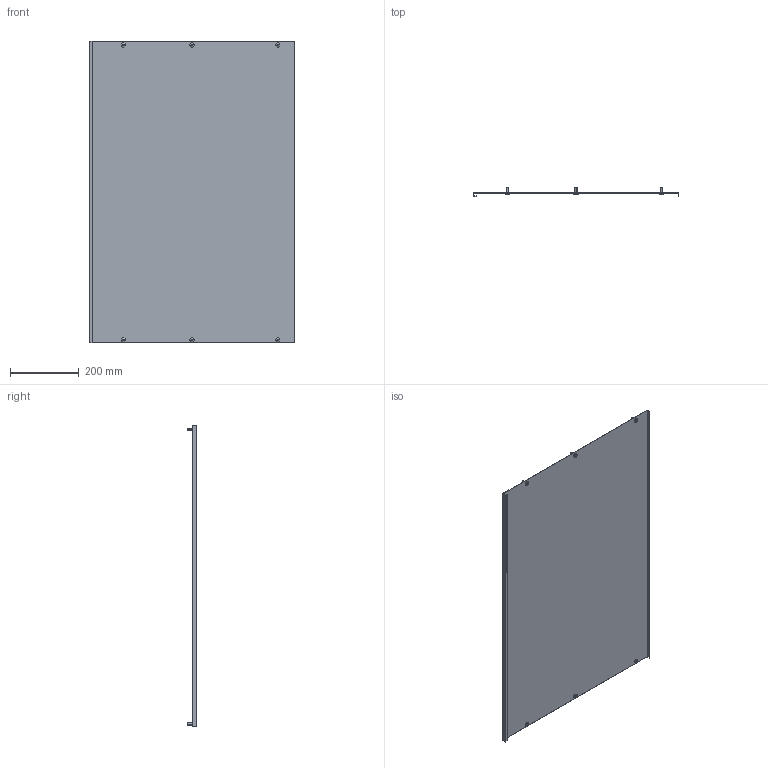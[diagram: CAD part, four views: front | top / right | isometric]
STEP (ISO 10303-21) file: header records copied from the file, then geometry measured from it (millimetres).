
FILE_DESCRIPTION (( 'STEP AP214' ), '1' );
FILE_NAME ('FO-00-PVS-060-100 Ïëàñòðîí ãëóõîé âíóòðåííèé 600õ1000.STEP', '2025-09-30T07:41:42', ( '' ), ( '' ), 'SwSTEP 2.0', 'SolidWorks 2023', '' );
FILE_SCHEMA (( 'AUTOMOTIVE_DESIGN' ));
Length unit declared in the file: millimetre
Products named in the file (3): FO-00-PVS-060-100 Пластрон глухой внутренний 600х1000; Винт M6x16 060-100 IEK
Assembly tree (3 placements, depth 2):
  FO-00-PVS-060-100 Пластрон глухой внутренний 600х1000
    FO-00-PVS-060-100 Пластрон глухой внутренний 600х1000
    Винт M6x16 060-100 IEK  x2
Bounding box: 598 x 27 x 879 mm (x, y, z)
Volume: 827010.8 mm3; surface area: 1105074.7 mm2
Topology: 7 solids, 7 shells, 214 faces, 558 edges, 364 vertices
Faces by surface type: cylinder 132, plane 52, cone 18, bspline 12
Entity records: 4464 total; most frequent: CARTESIAN_POINT 1022, ORIENTED_EDGE 708, DIRECTION 692, EDGE_CURVE 354, AXIS2_PLACEMENT_3D 256, VERTEX_POINT 232, VECTOR 180, LINE 180
